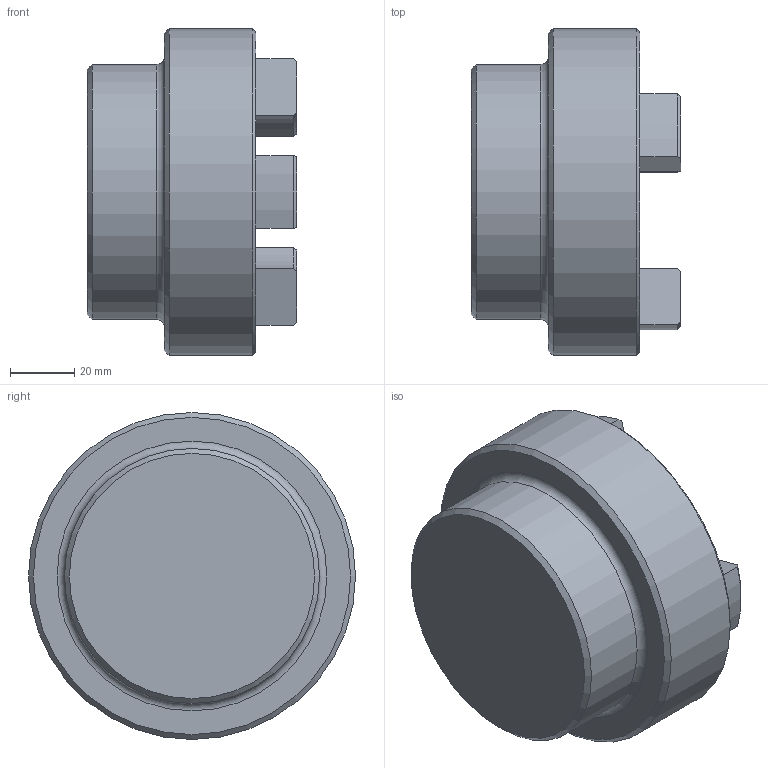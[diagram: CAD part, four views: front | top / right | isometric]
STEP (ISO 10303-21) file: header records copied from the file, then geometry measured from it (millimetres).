
FILE_DESCRIPTION (( 'STEP AP203' ), '1' );
FILE_NAME ('RC4.step', '2024-07-24T17:30:39', ( 'Adlan' ), ( '' ), 'SwSTEP 2.0', 'SolidWorks 2013', '' );
FILE_SCHEMA (( 'CONFIG_CONTROL_DESIGN' ));
Length unit declared in the file: inch
Products named in the file (1): RC4
Bounding box: 65.02 x 101.6 x 101.6 mm (x, y, z)
Volume: 280961.2 mm3; surface area: 38276 mm2
Topology: 1 solids, 1 shells, 58 faces, 141 edges, 87 vertices
Faces by surface type: cylinder 23, plane 13, torus 13, cone 9
Full cylindrical faces by diameter (mm): 79.248 x1, 101.6 x1
Entity records: 1787 total; most frequent: CARTESIAN_POINT 333, DIRECTION 314, ORIENTED_EDGE 268, EDGE_CURVE 134, AXIS2_PLACEMENT_3D 127, VERTEX_POINT 86, CIRCLE 68, EDGE_LOOP 66
